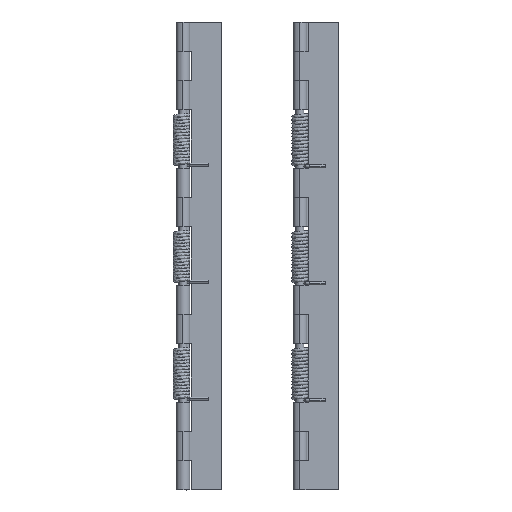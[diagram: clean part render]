
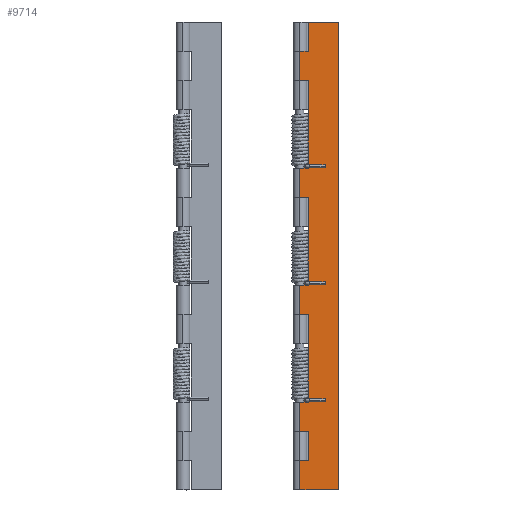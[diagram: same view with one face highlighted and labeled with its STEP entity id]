
A CAD part, top view. The second image highlights one B-rep face of the part: STEP entity #9714.
In plain terms, the highlighted planar face has unit normal (-0.001, 0, 1).
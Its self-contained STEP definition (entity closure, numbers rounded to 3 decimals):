
#9497=CARTESIAN_POINT('',(59.996,240.,5.522));
#9498=VERTEX_POINT('',#9497);
#9499=CARTESIAN_POINT('',(44.246,240.,5.505));
#9500=VERTEX_POINT('',#9499);
#9501=CARTESIAN_POINT('',(59.996,240.,5.522));
#9502=DIRECTION('',(-1.,0.0,-0.001));
#9503=VECTOR('',#9502,15.75);
#9504=LINE('',#9501,#9503);
#9505=EDGE_CURVE('',#9498,#9500,#9504,.T.);
#9529=CARTESIAN_POINT('',(59.996,0.,5.522));
#9530=VERTEX_POINT('',#9529);
#9531=CARTESIAN_POINT('',(59.996,0.,5.522));
#9532=DIRECTION('',(0.0,1.0,0.0));
#9533=VECTOR('',#9532,240.);
#9534=LINE('',#9531,#9533);
#9535=EDGE_CURVE('',#9530,#9498,#9534,.T.);
#9547=CARTESIAN_POINT('',(36.496,225.,5.496));
#9548=DIRECTION('',(-0.001,0.,1.));
#9549=DIRECTION('',(0.0,1.0,0.0));
#9550=AXIS2_PLACEMENT_3D('',#9547,#9548,#9549);
#9551=PLANE('',#9550);
#9552=CARTESIAN_POINT('',(44.246,105.0,5.505));
#9553=VERTEX_POINT('',#9552);
#9554=CARTESIAN_POINT('',(44.246,150.0,5.505));
#9555=VERTEX_POINT('',#9554);
#9556=CARTESIAN_POINT('',(44.246,105.0,5.505));
#9557=DIRECTION('',(0.0,1.0,0.0));
#9558=VECTOR('',#9557,45.0);
#9559=LINE('',#9556,#9558);
#9560=EDGE_CURVE('',#9553,#9555,#9559,.T.);
#9561=ORIENTED_EDGE('',*,*,#9560,.F.);
#9562=CARTESIAN_POINT('',(39.996,105.0,5.5));
#9563=VERTEX_POINT('',#9562);
#9564=CARTESIAN_POINT('',(39.996,105.0,5.5));
#9565=DIRECTION('',(1.,0.0,0.001));
#9566=VECTOR('',#9565,4.25);
#9567=LINE('',#9564,#9566);
#9568=EDGE_CURVE('',#9563,#9553,#9567,.T.);
#9569=ORIENTED_EDGE('',*,*,#9568,.F.);
#9570=CARTESIAN_POINT('',(39.996,90.0,5.5));
#9571=VERTEX_POINT('',#9570);
#9572=CARTESIAN_POINT('',(39.996,105.0,5.5));
#9573=DIRECTION('',(0.0,-1.0,0.0));
#9574=VECTOR('',#9573,15.0);
#9575=LINE('',#9572,#9574);
#9576=EDGE_CURVE('',#9563,#9571,#9575,.T.);
#9577=ORIENTED_EDGE('',*,*,#9576,.T.);
#9578=CARTESIAN_POINT('',(44.246,90.0,5.505));
#9579=VERTEX_POINT('',#9578);
#9580=CARTESIAN_POINT('',(39.996,90.0,5.5));
#9581=DIRECTION('',(1.,0.0,0.001));
#9582=VECTOR('',#9581,4.25);
#9583=LINE('',#9580,#9582);
#9584=EDGE_CURVE('',#9571,#9579,#9583,.T.);
#9585=ORIENTED_EDGE('',*,*,#9584,.T.);
#9586=CARTESIAN_POINT('',(44.246,45.,5.505));
#9587=VERTEX_POINT('',#9586);
#9588=CARTESIAN_POINT('',(44.246,45.,5.505));
#9589=DIRECTION('',(0.0,1.0,0.0));
#9590=VECTOR('',#9589,45.);
#9591=LINE('',#9588,#9590);
#9592=EDGE_CURVE('',#9587,#9579,#9591,.T.);
#9593=ORIENTED_EDGE('',*,*,#9592,.F.);
#9594=CARTESIAN_POINT('',(39.996,45.,5.5));
#9595=VERTEX_POINT('',#9594);
#9596=CARTESIAN_POINT('',(39.996,45.,5.5));
#9597=DIRECTION('',(1.,0.0,0.001));
#9598=VECTOR('',#9597,4.25);
#9599=LINE('',#9596,#9598);
#9600=EDGE_CURVE('',#9595,#9587,#9599,.T.);
#9601=ORIENTED_EDGE('',*,*,#9600,.F.);
#9602=CARTESIAN_POINT('',(39.996,30.,5.5));
#9603=VERTEX_POINT('',#9602);
#9604=CARTESIAN_POINT('',(39.996,45.,5.5));
#9605=DIRECTION('',(0.0,-1.0,0.0));
#9606=VECTOR('',#9605,15.0);
#9607=LINE('',#9604,#9606);
#9608=EDGE_CURVE('',#9595,#9603,#9607,.T.);
#9609=ORIENTED_EDGE('',*,*,#9608,.T.);
#9610=CARTESIAN_POINT('',(44.246,30.,5.505));
#9611=VERTEX_POINT('',#9610);
#9612=CARTESIAN_POINT('',(39.996,30.,5.5));
#9613=DIRECTION('',(1.,0.0,0.001));
#9614=VECTOR('',#9613,4.25);
#9615=LINE('',#9612,#9614);
#9616=EDGE_CURVE('',#9603,#9611,#9615,.T.);
#9617=ORIENTED_EDGE('',*,*,#9616,.T.);
#9618=CARTESIAN_POINT('',(44.246,15.,5.505));
#9619=VERTEX_POINT('',#9618);
#9620=CARTESIAN_POINT('',(44.246,15.,5.505));
#9621=DIRECTION('',(0.0,1.0,0.0));
#9622=VECTOR('',#9621,15.);
#9623=LINE('',#9620,#9622);
#9624=EDGE_CURVE('',#9619,#9611,#9623,.T.);
#9625=ORIENTED_EDGE('',*,*,#9624,.F.);
#9626=CARTESIAN_POINT('',(39.996,15.,5.5));
#9627=VERTEX_POINT('',#9626);
#9628=CARTESIAN_POINT('',(39.996,15.,5.5));
#9629=DIRECTION('',(1.,0.0,0.001));
#9630=VECTOR('',#9629,4.25);
#9631=LINE('',#9628,#9630);
#9632=EDGE_CURVE('',#9627,#9619,#9631,.T.);
#9633=ORIENTED_EDGE('',*,*,#9632,.F.);
#9634=CARTESIAN_POINT('',(39.996,0.,5.5));
#9635=VERTEX_POINT('',#9634);
#9636=CARTESIAN_POINT('',(39.996,15.,5.5));
#9637=DIRECTION('',(0.0,-1.0,0.0));
#9638=VECTOR('',#9637,15.0);
#9639=LINE('',#9636,#9638);
#9640=EDGE_CURVE('',#9627,#9635,#9639,.T.);
#9641=ORIENTED_EDGE('',*,*,#9640,.T.);
#9642=CARTESIAN_POINT('',(39.996,0.,5.5));
#9643=DIRECTION('',(1.,0.0,0.001));
#9644=VECTOR('',#9643,20.0);
#9645=LINE('',#9642,#9644);
#9646=EDGE_CURVE('',#9635,#9530,#9645,.T.);
#9647=ORIENTED_EDGE('',*,*,#9646,.T.);
#9648=ORIENTED_EDGE('',*,*,#9535,.T.);
#9649=ORIENTED_EDGE('',*,*,#9505,.T.);
#9650=CARTESIAN_POINT('',(44.246,225.,5.505));
#9651=VERTEX_POINT('',#9650);
#9652=CARTESIAN_POINT('',(44.246,225.,5.505));
#9653=DIRECTION('',(0.0,1.0,0.0));
#9654=VECTOR('',#9653,15.0);
#9655=LINE('',#9652,#9654);
#9656=EDGE_CURVE('',#9651,#9500,#9655,.T.);
#9657=ORIENTED_EDGE('',*,*,#9656,.F.);
#9658=CARTESIAN_POINT('',(39.996,225.,5.5));
#9659=VERTEX_POINT('',#9658);
#9660=CARTESIAN_POINT('',(39.996,225.,5.5));
#9661=DIRECTION('',(1.,0.0,0.001));
#9662=VECTOR('',#9661,4.25);
#9663=LINE('',#9660,#9662);
#9664=EDGE_CURVE('',#9659,#9651,#9663,.T.);
#9665=ORIENTED_EDGE('',*,*,#9664,.F.);
#9666=CARTESIAN_POINT('',(39.996,210.0,5.5));
#9667=VERTEX_POINT('',#9666);
#9668=CARTESIAN_POINT('',(39.996,225.,5.5));
#9669=DIRECTION('',(0.0,-1.0,0.0));
#9670=VECTOR('',#9669,15.);
#9671=LINE('',#9668,#9670);
#9672=EDGE_CURVE('',#9659,#9667,#9671,.T.);
#9673=ORIENTED_EDGE('',*,*,#9672,.T.);
#9674=CARTESIAN_POINT('',(44.246,210.0,5.505));
#9675=VERTEX_POINT('',#9674);
#9676=CARTESIAN_POINT('',(39.996,210.0,5.5));
#9677=DIRECTION('',(1.,0.0,0.001));
#9678=VECTOR('',#9677,4.25);
#9679=LINE('',#9676,#9678);
#9680=EDGE_CURVE('',#9667,#9675,#9679,.T.);
#9681=ORIENTED_EDGE('',*,*,#9680,.T.);
#9682=CARTESIAN_POINT('',(44.246,165.0,5.505));
#9683=VERTEX_POINT('',#9682);
#9684=CARTESIAN_POINT('',(44.246,165.0,5.505));
#9685=DIRECTION('',(0.0,1.0,0.0));
#9686=VECTOR('',#9685,45.0);
#9687=LINE('',#9684,#9686);
#9688=EDGE_CURVE('',#9683,#9675,#9687,.T.);
#9689=ORIENTED_EDGE('',*,*,#9688,.F.);
#9690=CARTESIAN_POINT('',(39.996,165.0,5.5));
#9691=VERTEX_POINT('',#9690);
#9692=CARTESIAN_POINT('',(39.996,165.0,5.5));
#9693=DIRECTION('',(1.,0.0,0.001));
#9694=VECTOR('',#9693,4.25);
#9695=LINE('',#9692,#9694);
#9696=EDGE_CURVE('',#9691,#9683,#9695,.T.);
#9697=ORIENTED_EDGE('',*,*,#9696,.F.);
#9698=CARTESIAN_POINT('',(39.996,150.0,5.5));
#9699=VERTEX_POINT('',#9698);
#9700=CARTESIAN_POINT('',(39.996,165.0,5.5));
#9701=DIRECTION('',(0.0,-1.0,0.0));
#9702=VECTOR('',#9701,15.0);
#9703=LINE('',#9700,#9702);
#9704=EDGE_CURVE('',#9691,#9699,#9703,.T.);
#9705=ORIENTED_EDGE('',*,*,#9704,.T.);
#9706=CARTESIAN_POINT('',(39.996,150.0,5.5));
#9707=DIRECTION('',(1.,0.0,0.001));
#9708=VECTOR('',#9707,4.25);
#9709=LINE('',#9706,#9708);
#9710=EDGE_CURVE('',#9699,#9555,#9709,.T.);
#9711=ORIENTED_EDGE('',*,*,#9710,.T.);
#9712=EDGE_LOOP('',(#9561,#9569,#9577,#9585,#9593,#9601,#9609,#9617,#9625,#9633,#9641,#9647,#9648,#9649,#9657,#9665,#9673,#9681,#9689,#9697,#9705,#9711));
#9713=FACE_OUTER_BOUND('',#9712,.T.);
#9714=ADVANCED_FACE('',(#9713),#9551,.T.);
